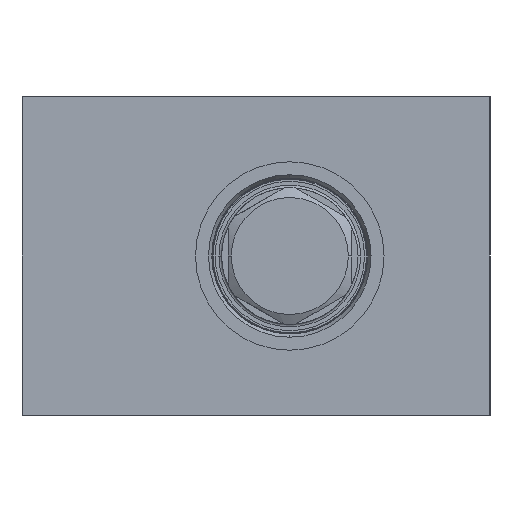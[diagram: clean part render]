
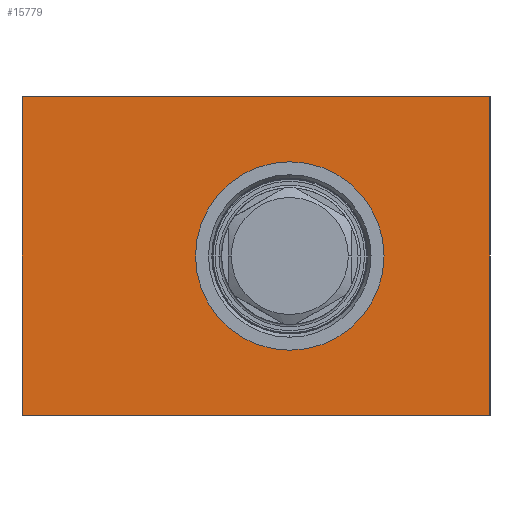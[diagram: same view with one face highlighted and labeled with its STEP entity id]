
A CAD part, left-side view. The second image highlights one B-rep face of the part: STEP entity #15779.
In plain terms, the highlighted planar face has unit normal (-1, 0, 0).
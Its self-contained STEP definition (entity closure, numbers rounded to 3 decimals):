
#941 = ORIENTED_EDGE ( 'NONE', *, *, #27230, .F. ) ;
#1104 = CARTESIAN_POINT ( 'NONE',  ( -49., 36., 24.5 ) ) ;
#1516 = CARTESIAN_POINT ( 'NONE',  ( -49., -5.2, -14.5 ) ) ;
#1817 = VERTEX_POINT ( 'NONE', #16018 ) ;
#2072 = VERTEX_POINT ( 'NONE', #1516 ) ;
#2703 = DIRECTION ( 'NONE',  ( 0., 0., 1. ) ) ;
#2921 = VECTOR ( 'NONE', #26113, 1000. ) ;
#3358 = LINE ( 'NONE', #12403, #19837 ) ;
#3481 = CARTESIAN_POINT ( 'NONE',  ( -49., 36., -24.5 ) ) ;
#4781 = DIRECTION ( 'NONE',  ( 0., 0., -1. ) ) ;
#4925 = DIRECTION ( 'NONE',  ( 1., 0., 0. ) ) ;
#5256 = AXIS2_PLACEMENT_3D ( 'NONE', #26680, #17060, #26107 ) ;
#5393 = CARTESIAN_POINT ( 'NONE',  ( -49., -5.2, 14.5 ) ) ;
#5534 = EDGE_LOOP ( 'NONE', ( #6550, #13374 ) ) ;
#5551 = CARTESIAN_POINT ( 'NONE',  ( -49., 36., 24.5 ) ) ;
#6550 = ORIENTED_EDGE ( 'NONE', *, *, #13195, .T. ) ;
#9045 = CARTESIAN_POINT ( 'NONE',  ( -49., -36., 24.5 ) ) ;
#9585 = DIRECTION ( 'NONE',  ( 0., 0., 1. ) ) ;
#9642 = CARTESIAN_POINT ( 'NONE',  ( -49., -5.2, 0. ) ) ;
#10120 = DIRECTION ( 'NONE',  ( 1., 0., 0. ) ) ;
#11846 = VERTEX_POINT ( 'NONE', #5393 ) ;
#11963 = EDGE_CURVE ( 'NONE', #11846, #2072, #14713, .T. ) ;
#12070 = LINE ( 'NONE', #5551, #17473 ) ;
#12202 = CARTESIAN_POINT ( 'NONE',  ( -49., 36., -24.5 ) ) ;
#12365 = FACE_OUTER_BOUND ( 'NONE', #26535, .T. ) ;
#12403 = CARTESIAN_POINT ( 'NONE',  ( -49., 36., 24.5 ) ) ;
#12850 = EDGE_CURVE ( 'NONE', #17860, #1817, #19589, .T. ) ;
#13195 = EDGE_CURVE ( 'NONE', #2072, #11846, #13814, .T. ) ;
#13374 = ORIENTED_EDGE ( 'NONE', *, *, #11963, .T. ) ;
#13526 = CARTESIAN_POINT ( 'NONE',  ( -49., -36., 24.5 ) ) ;
#13602 = VERTEX_POINT ( 'NONE', #9045 ) ;
#13814 = CIRCLE ( 'NONE', #28930, 14.5 ) ;
#14713 = CIRCLE ( 'NONE', #5256, 14.5 ) ;
#15738 = AXIS2_PLACEMENT_3D ( 'NONE', #1104, #10120, #18717 ) ;
#15779 = ADVANCED_FACE ( 'NONE', ( #23155, #12365 ), #21381, .F. ) ;
#16018 = CARTESIAN_POINT ( 'NONE',  ( -49., -36., -24.5 ) ) ;
#16172 = LINE ( 'NONE', #13526, #18649 ) ;
#17060 = DIRECTION ( 'NONE',  ( 1., 0., 0. ) ) ;
#17473 = VECTOR ( 'NONE', #23441, 1000. ) ;
#17860 = VERTEX_POINT ( 'NONE', #3481 ) ;
#17875 = VERTEX_POINT ( 'NONE', #25977 ) ;
#18649 = VECTOR ( 'NONE', #2703, 1000. ) ;
#18717 = DIRECTION ( 'NONE',  ( 0., 0., -1. ) ) ;
#19589 = LINE ( 'NONE', #12202, #2921 ) ;
#19837 = VECTOR ( 'NONE', #9585, 1000. ) ;
#21374 = EDGE_CURVE ( 'NONE', #1817, #13602, #16172, .T. ) ;
#21381 = PLANE ( 'NONE',  #15738 ) ;
#22438 = ORIENTED_EDGE ( 'NONE', *, *, #21374, .T. ) ;
#22819 = ORIENTED_EDGE ( 'NONE', *, *, #12850, .T. ) ;
#23155 = FACE_BOUND ( 'NONE', #5534, .T. ) ;
#23441 = DIRECTION ( 'NONE',  ( 0., -1., 0. ) ) ;
#25977 = CARTESIAN_POINT ( 'NONE',  ( -49., 36., 24.5 ) ) ;
#26107 = DIRECTION ( 'NONE',  ( 0., 0., -1. ) ) ;
#26113 = DIRECTION ( 'NONE',  ( 0., -1., 0. ) ) ;
#26535 = EDGE_LOOP ( 'NONE', ( #22438, #941, #28014, #22819 ) ) ;
#26680 = CARTESIAN_POINT ( 'NONE',  ( -49., -5.2, 0. ) ) ;
#26886 = EDGE_CURVE ( 'NONE', #17860, #17875, #3358, .T. ) ;
#27230 = EDGE_CURVE ( 'NONE', #17875, #13602, #12070, .T. ) ;
#28014 = ORIENTED_EDGE ( 'NONE', *, *, #26886, .F. ) ;
#28930 = AXIS2_PLACEMENT_3D ( 'NONE', #9642, #4925, #4781 ) ;
